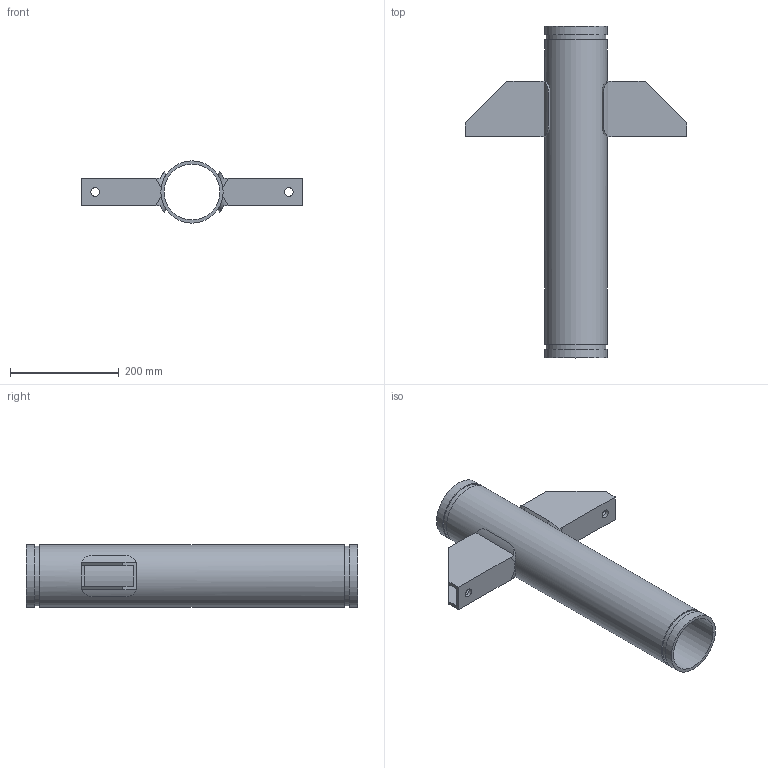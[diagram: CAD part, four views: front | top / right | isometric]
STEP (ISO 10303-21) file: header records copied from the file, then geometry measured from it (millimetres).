
FILE_DESCRIPTION(/* description */ ('VIC Floor-Mounted Carbon Steel Riser Anchor No A10','CAx-IF Rec.Pracs.---Representation and Presentation of Product Manufacturing Information (PMI)---4.0---2014-10-13'),/* implementation_level */ '2;1');
FILE_NAME(/* name */ 'C:\Users\kkamble\AppData\Roaming\Autodesk\ApplicationPlugins\Back Up\Victaulic_SS-OGS_Riser Anchor_No A10 (OGS)\Victaulic_SS-OGS_Riser Anchor_No A10 (OGS)_4 (100).stp',/* time_stamp */ '2020-08-25T18:06:45+06:00',/* author */ ('kkamble'),/* organization */ ('Victaulic'),/* preprocessor_version */ 'ST-DEVELOPER v17.2',/* originating_system */ 'Autodesk Inventor 2019',/* authorisation */ '');
FILE_SCHEMA (('AP242_MANAGED_MODEL_BASED_3D_ENGINEERING_MIM_LF { 1 0 10303 442 1 1 4 }'));
Length unit declared in the file: inch
Products named in the file (1): A10S-04.0
Bounding box: 406.4 x 609.6 x 114.3 mm (x, y, z)
Volume: 1719520.5 mm3; surface area: 554070.7 mm2
Topology: 1 solids, 1 shells, 56 faces, 155 edges, 106 vertices
Faces by surface type: plane 34, cylinder 22
Full cylindrical faces by diameter (mm): 15.875 x2, 102.26 x1, 110.084 x2, 114.3 x3
Entity records: 2169 total; most frequent: CARTESIAN_POINT 527, DIRECTION 325, ORIENTED_EDGE 310, EDGE_CURVE 155, AXIS2_PLACEMENT_3D 116, VERTEX_POINT 106, LINE 93, VECTOR 93
